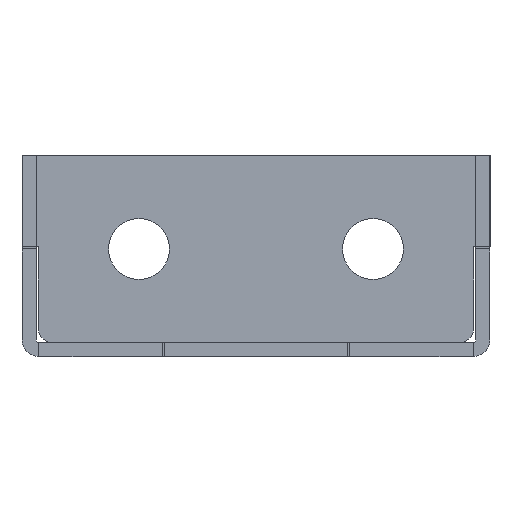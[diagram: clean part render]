
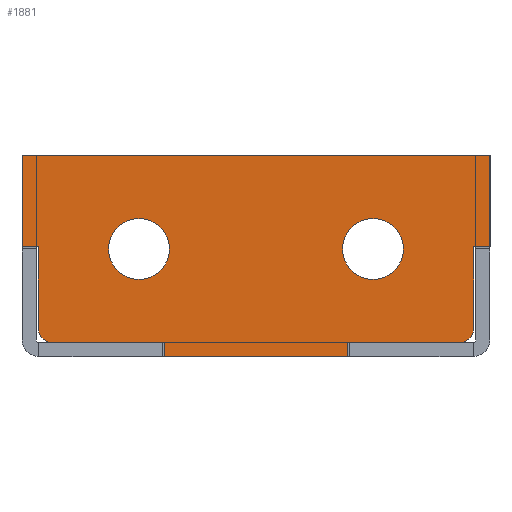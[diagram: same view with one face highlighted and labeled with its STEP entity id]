
A CAD part, left-side view. The second image highlights one B-rep face of the part: STEP entity #1881.
In plain terms, the highlighted planar face has unit normal (-1, 0, 0) as drawn and (0, 0, -1) by its records, which use the part's own axes.
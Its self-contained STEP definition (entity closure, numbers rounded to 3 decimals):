
#366=CARTESIAN_POINT(' ',(6.5,-25.,-3.));
#367=VERTEX_POINT(' ',#366);
#381=CARTESIAN_POINT(' ',(0.,-25.,-3.));
#386=DIRECTION(' ',(0.,0.,-1.));
#391=DIRECTION(' ',(1.,0.,0.));
#396=AXIS2_PLACEMENT_3D(' ',#381,#386,#391);
#401=CIRCLE('',#396,6.5);
#406=CARTESIAN_POINT(' ',(-6.5,-25.,-3.));
#407=VERTEX_POINT(' ',#406);
#411=EDGE_CURVE(' ',#367,#407,#401,.T.);
#1186=CARTESIAN_POINT(' ',(0.,-25.,-3.));
#1191=DIRECTION(' ',(0.,-0.,-1.));
#1196=DIRECTION(' ',(-1.,0.,0.));
#1201=AXIS2_PLACEMENT_3D(' ',#1186,#1191,#1196);
#1206=CIRCLE('',#1201,6.5);
#1211=EDGE_CURVE(' ',#407,#367,#1206,.T.);
#1236=DIRECTION(' ',(-0.,0.,-1.));
#1241=CARTESIAN_POINT(' ',(-20.,-50.,-3.));
#1246=DIRECTION(' ',(0.,1.,0.));
#1251=AXIS2_PLACEMENT_3D(' ',#1241,#1236,#1246);
#1256=PLANE('NONE',#1251);
#1261=CARTESIAN_POINT(' ',(20.,-43.5,-3.));
#1266=DIRECTION(' ',(0.,1.,0.));
#1271=VECTOR(' ',#1266,1.);
#1276=LINE('',#1261,#1271);
#1281=CARTESIAN_POINT(' ',(20.,-43.5,-3.));
#1282=VERTEX_POINT(' ',#1281);
#1286=CARTESIAN_POINT(' ',(20.,-19.5,-3.));
#1287=VERTEX_POINT(' ',#1286);
#1291=EDGE_CURVE(' ',#1282,#1287,#1276,.T.);
#1296=ORIENTED_EDGE(' ',*,*,#1291,.F.);
#1301=CARTESIAN_POINT(' ',(17.,-43.5,-3.));
#1306=DIRECTION(' ',(-0.,0.,-1.));
#1311=DIRECTION(' ',(1.,0.,0.));
#1316=AXIS2_PLACEMENT_3D(' ',#1301,#1306,#1311);
#1321=CIRCLE('',#1316,3.);
#1326=CARTESIAN_POINT(' ',(17.,-46.5,-3.));
#1327=VERTEX_POINT(' ',#1326);
#1331=EDGE_CURVE(' ',#1282,#1327,#1321,.T.);
#1336=ORIENTED_EDGE(' ',*,*,#1331,.T.);
#1341=CARTESIAN_POINT(' ',(-0.5,-46.5,-3.));
#1346=DIRECTION(' ',(1.,0.,0.));
#1351=VECTOR(' ',#1346,1.);
#1356=LINE('',#1341,#1351);
#1361=CARTESIAN_POINT(' ',(-0.5,-46.5,-3.));
#1362=VERTEX_POINT(' ',#1361);
#1366=EDGE_CURVE(' ',#1362,#1327,#1356,.T.);
#1371=ORIENTED_EDGE(' ',*,*,#1366,.F.);
#1376=CARTESIAN_POINT(' ',(-0.5,-50.,-3.));
#1381=DIRECTION(' ',(0.,1.,0.));
#1386=VECTOR(' ',#1381,1.);
#1391=LINE('',#1376,#1386);
#1396=CARTESIAN_POINT(' ',(-0.5,-50.,-3.));
#1397=VERTEX_POINT(' ',#1396);
#1401=EDGE_CURVE(' ',#1397,#1362,#1391,.T.);
#1406=ORIENTED_EDGE(' ',*,*,#1401,.F.);
#1411=CARTESIAN_POINT(' ',(-20.,-50.,-3.));
#1416=DIRECTION(' ',(1.,0.,0.));
#1421=VECTOR(' ',#1416,1.);
#1426=LINE('',#1411,#1421);
#1431=CARTESIAN_POINT(' ',(-20.,-50.,-3.));
#1432=VERTEX_POINT(' ',#1431);
#1436=EDGE_CURVE(' ',#1432,#1397,#1426,.T.);
#1441=ORIENTED_EDGE(' ',*,*,#1436,.F.);
#1446=CARTESIAN_POINT(' ',(-20.,50.,-3.));
#1451=DIRECTION(' ',(0.,-1.,0.));
#1456=VECTOR(' ',#1451,1.);
#1461=LINE('',#1446,#1456);
#1466=CARTESIAN_POINT(' ',(-20.,50.,-3.));
#1467=VERTEX_POINT(' ',#1466);
#1471=EDGE_CURVE(' ',#1467,#1432,#1461,.T.);
#1476=ORIENTED_EDGE(' ',*,*,#1471,.F.);
#1481=CARTESIAN_POINT(' ',(-0.5,50.,-3.));
#1486=DIRECTION(' ',(-1.,0.,0.));
#1491=VECTOR(' ',#1486,1.);
#1496=LINE('',#1481,#1491);
#1501=CARTESIAN_POINT(' ',(-0.5,50.,-3.));
#1502=VERTEX_POINT(' ',#1501);
#1506=EDGE_CURVE(' ',#1502,#1467,#1496,.T.);
#1511=ORIENTED_EDGE(' ',*,*,#1506,.F.);
#1516=CARTESIAN_POINT(' ',(-0.5,46.5,-3.));
#1521=DIRECTION(' ',(0.,1.,0.));
#1526=VECTOR(' ',#1521,1.);
#1531=LINE('',#1516,#1526);
#1536=CARTESIAN_POINT(' ',(-0.5,46.5,-3.));
#1537=VERTEX_POINT(' ',#1536);
#1541=EDGE_CURVE(' ',#1537,#1502,#1531,.T.);
#1546=ORIENTED_EDGE(' ',*,*,#1541,.F.);
#1551=CARTESIAN_POINT(' ',(17.,46.5,-3.));
#1556=DIRECTION(' ',(-1.,0.,0.));
#1561=VECTOR(' ',#1556,1.);
#1566=LINE('',#1551,#1561);
#1571=CARTESIAN_POINT(' ',(17.,46.5,-3.));
#1572=VERTEX_POINT(' ',#1571);
#1576=EDGE_CURVE(' ',#1572,#1537,#1566,.T.);
#1581=ORIENTED_EDGE(' ',*,*,#1576,.F.);
#1586=CARTESIAN_POINT(' ',(17.,43.5,-3.));
#1591=DIRECTION(' ',(-0.,-0.,-1.));
#1596=DIRECTION(' ',(0.,1.,0.));
#1601=AXIS2_PLACEMENT_3D(' ',#1586,#1591,#1596);
#1606=CIRCLE('',#1601,3.);
#1611=CARTESIAN_POINT(' ',(20.,43.5,-3.));
#1612=VERTEX_POINT(' ',#1611);
#1616=EDGE_CURVE(' ',#1572,#1612,#1606,.T.);
#1621=ORIENTED_EDGE(' ',*,*,#1616,.T.);
#1626=CARTESIAN_POINT(' ',(20.,19.5,-3.));
#1631=DIRECTION(' ',(0.,1.,0.));
#1636=VECTOR(' ',#1631,1.);
#1641=LINE('',#1626,#1636);
#1646=CARTESIAN_POINT(' ',(20.,19.5,-3.));
#1647=VERTEX_POINT(' ',#1646);
#1651=EDGE_CURVE(' ',#1647,#1612,#1641,.T.);
#1656=ORIENTED_EDGE(' ',*,*,#1651,.F.);
#1661=CARTESIAN_POINT(' ',(23.,19.5,-3.));
#1666=DIRECTION(' ',(-1.,0.,0.));
#1671=VECTOR(' ',#1666,1.);
#1676=LINE('',#1661,#1671);
#1681=CARTESIAN_POINT(' ',(23.,19.5,-3.));
#1682=VERTEX_POINT(' ',#1681);
#1686=EDGE_CURVE(' ',#1682,#1647,#1676,.T.);
#1691=ORIENTED_EDGE(' ',*,*,#1686,.F.);
#1696=CARTESIAN_POINT(' ',(23.,-19.5,-3.));
#1701=DIRECTION(' ',(0.,1.,0.));
#1706=VECTOR(' ',#1701,1.);
#1711=LINE('',#1696,#1706);
#1716=CARTESIAN_POINT(' ',(23.,-19.5,-3.));
#1717=VERTEX_POINT(' ',#1716);
#1721=EDGE_CURVE(' ',#1717,#1682,#1711,.T.);
#1726=ORIENTED_EDGE(' ',*,*,#1721,.F.);
#1731=CARTESIAN_POINT(' ',(20.,-19.5,-3.));
#1736=DIRECTION(' ',(1.,0.,0.));
#1741=VECTOR(' ',#1736,1.);
#1746=LINE('',#1731,#1741);
#1751=EDGE_CURVE(' ',#1287,#1717,#1746,.T.);
#1756=ORIENTED_EDGE(' ',*,*,#1751,.F.);
#1761=EDGE_LOOP(' ',(#1296,#1336,#1371,#1406,#1441,#1476,#1511,#1546,#1581,#1621,#1656,#1691,#1726,#1756));
#1766=FACE_OUTER_BOUND(' ',#1761,.T.);
#1771=ORIENTED_EDGE(' ',*,*,#1211,.F.);
#1776=ORIENTED_EDGE(' ',*,*,#411,.F.);
#1781=EDGE_LOOP(' ',(#1771,#1776));
#1786=FACE_BOUND(' ',#1781,.T.);
#1791=CARTESIAN_POINT(' ',(0.,25.,-3.));
#1796=DIRECTION(' ',(0.,-0.,-1.));
#1801=DIRECTION(' ',(-1.,0.,0.));
#1806=AXIS2_PLACEMENT_3D(' ',#1791,#1796,#1801);
#1811=CIRCLE('',#1806,6.5);
#1816=CARTESIAN_POINT(' ',(-6.5,25.,-3.));
#1817=VERTEX_POINT(' ',#1816);
#1821=CARTESIAN_POINT(' ',(6.5,25.,-3.));
#1822=VERTEX_POINT(' ',#1821);
#1826=EDGE_CURVE(' ',#1817,#1822,#1811,.T.);
#1831=ORIENTED_EDGE(' ',*,*,#1826,.F.);
#1836=CARTESIAN_POINT(' ',(0.,25.,-3.));
#1841=DIRECTION(' ',(0.,0.,-1.));
#1846=DIRECTION(' ',(1.,0.,0.));
#1851=AXIS2_PLACEMENT_3D(' ',#1836,#1841,#1846);
#1856=CIRCLE('',#1851,6.5);
#1861=EDGE_CURVE(' ',#1822,#1817,#1856,.T.);
#1866=ORIENTED_EDGE(' ',*,*,#1861,.F.);
#1871=EDGE_LOOP(' ',(#1831,#1866));
#1876=FACE_BOUND(' ',#1871,.T.);
#1881=ADVANCED_FACE('NONE',(#1766,#1786,#1876),#1256,.T.);
